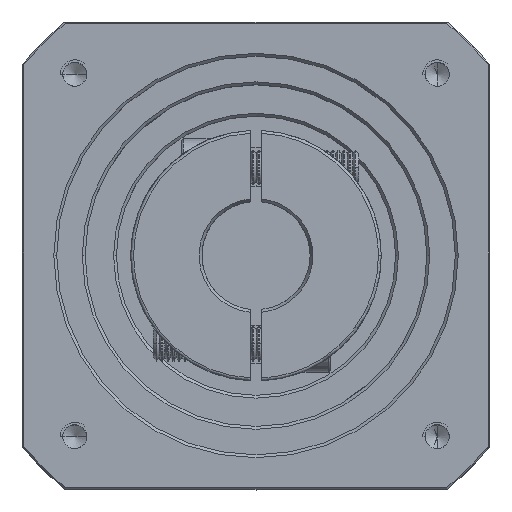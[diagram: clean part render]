
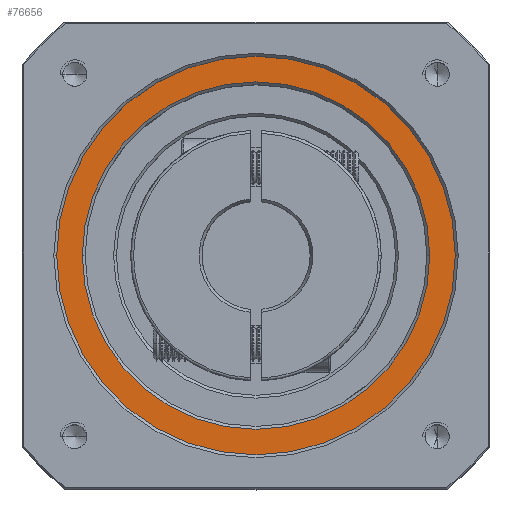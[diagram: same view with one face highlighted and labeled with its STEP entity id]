
A CAD part, top view. The second image highlights one B-rep face of the part: STEP entity #76656.
In plain terms, the highlighted planar face has unit normal (0, 0, 1).
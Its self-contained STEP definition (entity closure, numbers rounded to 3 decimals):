
#3322 = FACE_OUTER_BOUND ( 'NONE', #58429, .T. ) ;
#12544 = EDGE_CURVE ( 'NONE', #96801, #40893, #40473, .T. ) ;
#13230 = DIRECTION ( 'NONE',  ( 0., 0., 1. ) ) ;
#19226 = AXIS2_PLACEMENT_3D ( 'NONE', #124037, #52958, #61825 ) ;
#23563 = ORIENTED_EDGE ( 'NONE', *, *, #12544, .T. ) ;
#23651 = DIRECTION ( 'NONE',  ( 1., 0., 0. ) ) ;
#29395 = EDGE_LOOP ( 'NONE', ( #107579, #23563 ) ) ;
#37560 = DIRECTION ( 'NONE',  ( 1., 0., 0. ) ) ;
#37772 = CARTESIAN_POINT ( 'NONE',  ( -77.536, 43.315, -6.175 ) ) ;
#40473 = CIRCLE ( 'NONE', #68590, 30.5 ) ;
#40893 = VERTEX_POINT ( 'NONE', #111886 ) ;
#42949 = FACE_BOUND ( 'NONE', #29395, .T. ) ;
#50362 = CIRCLE ( 'NONE', #83624, 35. ) ;
#52958 = DIRECTION ( 'NONE',  ( 0., 0., -1. ) ) ;
#54604 = DIRECTION ( 'NONE',  ( 1., 0., 0. ) ) ;
#55641 = CARTESIAN_POINT ( 'NONE',  ( -42.536, 43.315, -6.175 ) ) ;
#58429 = EDGE_LOOP ( 'NONE', ( #61066, #68910 ) ) ;
#59923 = EDGE_CURVE ( 'NONE', #94806, #96012, #129334, .T. ) ;
#61066 = ORIENTED_EDGE ( 'NONE', *, *, #77625, .T. ) ;
#61825 = DIRECTION ( 'NONE',  ( 1., 0., 0. ) ) ;
#64624 = CARTESIAN_POINT ( 'NONE',  ( -7.536, 43.315, -6.175 ) ) ;
#65660 = DIRECTION ( 'NONE',  ( 0., 0., 1. ) ) ;
#68590 = AXIS2_PLACEMENT_3D ( 'NONE', #114062, #113633, #23651 ) ;
#68910 = ORIENTED_EDGE ( 'NONE', *, *, #59923, .T. ) ;
#74067 = CARTESIAN_POINT ( 'NONE',  ( -42.536, 43.315, -6.175 ) ) ;
#75804 = CARTESIAN_POINT ( 'NONE',  ( -42.536, 43.315, -6.175 ) ) ;
#76656 = ADVANCED_FACE ( 'NONE', ( #3322, #42949 ), #120942, .T. ) ;
#77625 = EDGE_CURVE ( 'NONE', #96012, #94806, #50362, .T. ) ;
#80228 = CIRCLE ( 'NONE', #19226, 30.5 ) ;
#83624 = AXIS2_PLACEMENT_3D ( 'NONE', #55641, #97987, #37560 ) ;
#83766 = DIRECTION ( 'NONE',  ( 1., 0., 0. ) ) ;
#85924 = AXIS2_PLACEMENT_3D ( 'NONE', #74067, #13230, #83766 ) ;
#87853 = CARTESIAN_POINT ( 'NONE',  ( -73.036, 43.315, -6.175 ) ) ;
#94806 = VERTEX_POINT ( 'NONE', #37772 ) ;
#96012 = VERTEX_POINT ( 'NONE', #64624 ) ;
#96405 = EDGE_CURVE ( 'NONE', #40893, #96801, #80228, .T. ) ;
#96801 = VERTEX_POINT ( 'NONE', #87853 ) ;
#97987 = DIRECTION ( 'NONE',  ( 0., 0., 1. ) ) ;
#107579 = ORIENTED_EDGE ( 'NONE', *, *, #96405, .T. ) ;
#111886 = CARTESIAN_POINT ( 'NONE',  ( -12.036, 43.315, -6.175 ) ) ;
#113633 = DIRECTION ( 'NONE',  ( 0., 0., -1. ) ) ;
#114062 = CARTESIAN_POINT ( 'NONE',  ( -42.536, 43.315, -6.175 ) ) ;
#120942 = PLANE ( 'NONE',  #85924 ) ;
#121030 = AXIS2_PLACEMENT_3D ( 'NONE', #75804, #65660, #54604 ) ;
#124037 = CARTESIAN_POINT ( 'NONE',  ( -42.536, 43.315, -6.175 ) ) ;
#129334 = CIRCLE ( 'NONE', #121030, 35. ) ;
